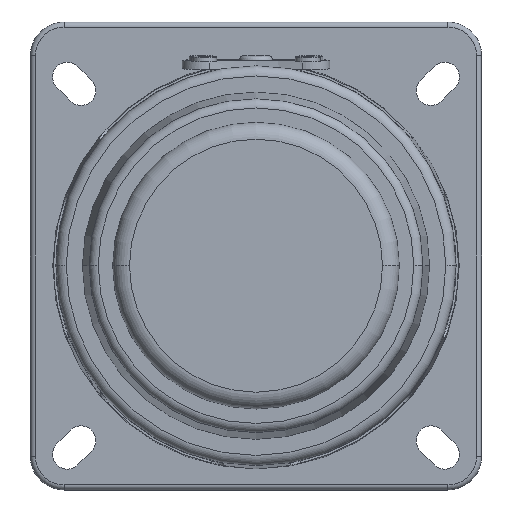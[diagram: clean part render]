
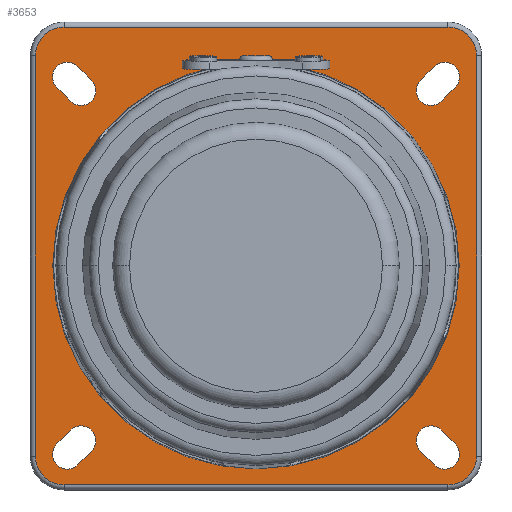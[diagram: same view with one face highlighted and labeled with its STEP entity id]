
A CAD part, front view. The second image highlights one B-rep face of the part: STEP entity #3653.
In plain terms, the highlighted planar face has unit normal (0, -1, 0).
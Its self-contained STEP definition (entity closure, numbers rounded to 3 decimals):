
#238=CARTESIAN_POINT('',(-22.38,17.4,22.38));
#239=DIRECTION('',(0.,1.,0.));
#240=DIRECTION('',(-0.707,0.,-0.707));
#241=AXIS2_PLACEMENT_3D('',#238,#239,#240);
#260=CARTESIAN_POINT('',(0.,17.4,0.));
#261=DIRECTION('',(0.,1.,0.));
#262=DIRECTION('',(1.,0.,0.));
#263=AXIS2_PLACEMENT_3D('',#260,#261,#262);
#268=CARTESIAN_POINT('',(0.,17.4,0.));
#269=DIRECTION('',(0.,-1.,0.));
#270=DIRECTION('',(1.,0.,0.));
#271=AXIS2_PLACEMENT_3D('',#268,#269,#270);
#276=CARTESIAN_POINT('',(-20.754,17.4,20.754));
#277=DIRECTION('',(0.,-1.,0.));
#278=DIRECTION('',(-0.707,0.,-0.707));
#279=AXIS2_PLACEMENT_3D('',#276,#277,#278);
#284=DIRECTION('',(-0.707,0.,0.707));
#285=VECTOR('',#284,2.3);
#286=CARTESIAN_POINT('',(-19.516,17.4,21.991));
#287=LINE('',#286,#285);
#291=DIRECTION('',(0.707,0.,-0.707));
#292=VECTOR('',#291,2.3);
#293=CARTESIAN_POINT('',(-23.617,17.4,21.142));
#294=LINE('',#293,#292);
#298=CARTESIAN_POINT('',(-20.754,17.4,-20.754));
#299=DIRECTION('',(0.,-1.,0.));
#300=DIRECTION('',(0.707,0.,-0.707));
#301=AXIS2_PLACEMENT_3D('',#298,#299,#300);
#306=DIRECTION('',(-0.707,0.,-0.707));
#307=VECTOR('',#306,2.3);
#308=CARTESIAN_POINT('',(-21.991,17.4,-19.516));
#309=LINE('',#308,#307);
#313=DIRECTION('',(0.707,0.,0.707));
#314=VECTOR('',#313,2.3);
#315=CARTESIAN_POINT('',(-21.142,17.4,-23.617));
#316=LINE('',#315,#314);
#320=CARTESIAN_POINT('',(20.754,17.4,-20.754));
#321=DIRECTION('',(0.,-1.,0.));
#322=DIRECTION('',(0.707,0.,0.707));
#323=AXIS2_PLACEMENT_3D('',#320,#321,#322);
#328=DIRECTION('',(0.707,0.,-0.707));
#329=VECTOR('',#328,2.3);
#330=CARTESIAN_POINT('',(19.516,17.4,-21.991));
#331=LINE('',#330,#329);
#335=DIRECTION('',(-0.707,0.,0.707));
#336=VECTOR('',#335,2.3);
#337=CARTESIAN_POINT('',(23.617,17.4,-21.142));
#338=LINE('',#337,#336);
#342=CARTESIAN_POINT('',(20.754,17.4,20.754));
#343=DIRECTION('',(0.,-1.,0.));
#344=DIRECTION('',(-0.707,0.,0.707));
#345=AXIS2_PLACEMENT_3D('',#342,#343,#344);
#350=DIRECTION('',(0.707,0.,0.707));
#351=VECTOR('',#350,2.3);
#352=CARTESIAN_POINT('',(21.991,17.4,19.516));
#353=LINE('',#352,#351);
#357=DIRECTION('',(-0.707,0.,-0.707));
#358=VECTOR('',#357,2.3);
#359=CARTESIAN_POINT('',(21.142,17.4,23.617));
#360=LINE('',#359,#358);
#364=CARTESIAN_POINT('',(-22.75,17.4,24.9));
#365=DIRECTION('',(0.,-1.,0.));
#366=DIRECTION('',(0.,0.,1.));
#367=AXIS2_PLACEMENT_3D('',#364,#365,#366);
#372=DIRECTION('',(-1.,0.,0.));
#373=VECTOR('',#372,45.5);
#374=CARTESIAN_POINT('',(22.75,17.4,28.3));
#375=LINE('',#374,#373);
#379=CARTESIAN_POINT('',(22.75,17.4,24.9));
#380=DIRECTION('',(0.,-1.,0.));
#381=DIRECTION('',(1.,0.,0.));
#382=AXIS2_PLACEMENT_3D('',#379,#380,#381);
#387=DIRECTION('',(0.,0.,1.));
#388=VECTOR('',#387,47.5);
#389=CARTESIAN_POINT('',(26.15,17.4,-22.6));
#390=LINE('',#389,#388);
#394=CARTESIAN_POINT('',(22.75,17.4,-22.6));
#395=DIRECTION('',(0.,-1.,0.));
#396=DIRECTION('',(0.,0.,-1.));
#397=AXIS2_PLACEMENT_3D('',#394,#395,#396);
#402=DIRECTION('',(1.,0.,0.));
#403=VECTOR('',#402,45.5);
#404=CARTESIAN_POINT('',(-22.75,17.4,-26.));
#405=LINE('',#404,#403);
#409=CARTESIAN_POINT('',(-22.75,17.4,-22.6));
#410=DIRECTION('',(0.,-1.,0.));
#411=DIRECTION('',(-1.,0.,0.));
#412=AXIS2_PLACEMENT_3D('',#409,#410,#411);
#417=DIRECTION('',(0.,0.,-1.));
#418=VECTOR('',#417,47.5);
#419=CARTESIAN_POINT('',(-26.15,17.4,24.9));
#420=LINE('',#419,#418);
#2532=CARTESIAN_POINT('',(-22.38,17.4,-22.38));
#2533=DIRECTION('',(0.,1.,0.));
#2534=DIRECTION('',(0.707,0.,-0.707));
#2535=AXIS2_PLACEMENT_3D('',#2532,#2533,#2534);
#2576=CARTESIAN_POINT('',(22.38,17.4,-22.38));
#2577=DIRECTION('',(0.,1.,0.));
#2578=DIRECTION('',(0.707,0.,0.707));
#2579=AXIS2_PLACEMENT_3D('',#2576,#2577,#2578);
#2620=CARTESIAN_POINT('',(22.38,17.4,22.38));
#2621=DIRECTION('',(0.,1.,0.));
#2622=DIRECTION('',(-0.707,0.,0.707));
#2623=AXIS2_PLACEMENT_3D('',#2620,#2621,#2622);
#3054=CARTESIAN_POINT('',(24.097,17.4,0.));
#3055=CARTESIAN_POINT('',(-24.097,17.4,0.));
#3056=VERTEX_POINT('',#3054);
#3057=VERTEX_POINT('',#3055);
#3094=CARTESIAN_POINT('',(-21.991,17.4,19.516));
#3095=CARTESIAN_POINT('',(-19.516,17.4,21.991));
#3096=VERTEX_POINT('',#3094);
#3097=VERTEX_POINT('',#3095);
#3098=CARTESIAN_POINT('',(-21.142,17.4,23.617));
#3099=VERTEX_POINT('',#3098);
#3100=CARTESIAN_POINT('',(-23.617,17.4,21.142));
#3101=VERTEX_POINT('',#3100);
#3110=CARTESIAN_POINT('',(-19.516,17.4,-21.991));
#3111=CARTESIAN_POINT('',(-21.991,17.4,-19.516));
#3112=VERTEX_POINT('',#3110);
#3113=VERTEX_POINT('',#3111);
#3114=CARTESIAN_POINT('',(-23.617,17.4,-21.142));
#3115=VERTEX_POINT('',#3114);
#3116=CARTESIAN_POINT('',(-21.142,17.4,-23.617));
#3117=VERTEX_POINT('',#3116);
#3126=CARTESIAN_POINT('',(21.991,17.4,-19.516));
#3127=CARTESIAN_POINT('',(19.516,17.4,-21.991));
#3128=VERTEX_POINT('',#3126);
#3129=VERTEX_POINT('',#3127);
#3130=CARTESIAN_POINT('',(21.142,17.4,-23.617));
#3131=VERTEX_POINT('',#3130);
#3132=CARTESIAN_POINT('',(23.617,17.4,-21.142));
#3133=VERTEX_POINT('',#3132);
#3142=CARTESIAN_POINT('',(19.516,17.4,21.991));
#3143=CARTESIAN_POINT('',(21.991,17.4,19.516));
#3144=VERTEX_POINT('',#3142);
#3145=VERTEX_POINT('',#3143);
#3146=CARTESIAN_POINT('',(23.617,17.4,21.142));
#3147=VERTEX_POINT('',#3146);
#3148=CARTESIAN_POINT('',(21.142,17.4,23.617));
#3149=VERTEX_POINT('',#3148);
#3374=CARTESIAN_POINT('',(-22.75,17.4,28.3));
#3375=CARTESIAN_POINT('',(-26.15,17.4,24.9));
#3376=VERTEX_POINT('',#3374);
#3377=VERTEX_POINT('',#3375);
#3382=CARTESIAN_POINT('',(-26.15,17.4,-22.6));
#3383=VERTEX_POINT('',#3382);
#3386=CARTESIAN_POINT('',(-22.75,17.4,-26.));
#3387=VERTEX_POINT('',#3386);
#3390=CARTESIAN_POINT('',(22.75,17.4,-26.));
#3391=VERTEX_POINT('',#3390);
#3394=CARTESIAN_POINT('',(26.15,17.4,-22.6));
#3395=VERTEX_POINT('',#3394);
#3398=CARTESIAN_POINT('',(26.15,17.4,24.9));
#3399=VERTEX_POINT('',#3398);
#3402=CARTESIAN_POINT('',(22.75,17.4,28.3));
#3403=VERTEX_POINT('',#3402);
#3588=CARTESIAN_POINT('',(0.,17.4,0.));
#3589=DIRECTION('',(0.,-1.,0.));
#3590=DIRECTION('',(-1.,0.,0.));
#3591=AXIS2_PLACEMENT_3D('',#3588,#3589,#3590);
#3592=PLANE('',#3591);
#3594=ORIENTED_EDGE('',*,*,#3593,.F.);
#3596=ORIENTED_EDGE('',*,*,#3595,.F.);
#3598=ORIENTED_EDGE('',*,*,#3597,.F.);
#3600=ORIENTED_EDGE('',*,*,#3599,.F.);
#3602=ORIENTED_EDGE('',*,*,#3601,.F.);
#3604=ORIENTED_EDGE('',*,*,#3603,.F.);
#3606=ORIENTED_EDGE('',*,*,#3605,.F.);
#3608=ORIENTED_EDGE('',*,*,#3607,.F.);
#3609=EDGE_LOOP('',(#3594,#3596,#3598,#3600,#3602,#3604,#3606,#3608));
#3610=FACE_OUTER_BOUND('',#3609,.F.);
#3611=ORIENTED_EDGE('',*,*,#3540,.T.);
#3612=ORIENTED_EDGE('',*,*,#3555,.T.);
#3613=ORIENTED_EDGE('',*,*,#3569,.F.);
#3614=ORIENTED_EDGE('',*,*,#3582,.T.);
#3615=EDGE_LOOP('',(#3611,#3612,#3613,#3614));
#3616=FACE_BOUND('',#3615,.F.);
#3618=ORIENTED_EDGE('',*,*,#3617,.T.);
#3620=ORIENTED_EDGE('',*,*,#3619,.T.);
#3622=ORIENTED_EDGE('',*,*,#3621,.F.);
#3624=ORIENTED_EDGE('',*,*,#3623,.T.);
#3625=EDGE_LOOP('',(#3618,#3620,#3622,#3624));
#3626=FACE_BOUND('',#3625,.F.);
#3628=ORIENTED_EDGE('',*,*,#3627,.T.);
#3630=ORIENTED_EDGE('',*,*,#3629,.T.);
#3632=ORIENTED_EDGE('',*,*,#3631,.F.);
#3634=ORIENTED_EDGE('',*,*,#3633,.T.);
#3635=EDGE_LOOP('',(#3628,#3630,#3632,#3634));
#3636=FACE_BOUND('',#3635,.F.);
#3638=ORIENTED_EDGE('',*,*,#3637,.T.);
#3640=ORIENTED_EDGE('',*,*,#3639,.T.);
#3642=ORIENTED_EDGE('',*,*,#3641,.F.);
#3644=ORIENTED_EDGE('',*,*,#3643,.T.);
#3645=EDGE_LOOP('',(#3638,#3640,#3642,#3644));
#3646=FACE_BOUND('',#3645,.F.);
#3648=ORIENTED_EDGE('',*,*,#3647,.F.);
#3650=ORIENTED_EDGE('',*,*,#3649,.T.);
#3651=EDGE_LOOP('',(#3648,#3650));
#3652=FACE_BOUND('',#3651,.F.);
#3653=ADVANCED_FACE('',(#3610,#3616,#3626,#3636,#3646,#3652),#3592,.T.);
#242=CIRCLE('',#241,1.75);
#264=CIRCLE('',#263,24.097);
#272=CIRCLE('',#271,24.097);
#280=CIRCLE('',#279,1.75);
#302=CIRCLE('',#301,1.75);
#324=CIRCLE('',#323,1.75);
#346=CIRCLE('',#345,1.75);
#368=CIRCLE('',#367,3.4);
#383=CIRCLE('',#382,3.4);
#398=CIRCLE('',#397,3.4);
#413=CIRCLE('',#412,3.4);
#2536=CIRCLE('',#2535,1.75);
#2580=CIRCLE('',#2579,1.75);
#2624=CIRCLE('',#2623,1.75);
#3540=EDGE_CURVE('',#3096,#3097,#280,.T.);
#3555=EDGE_CURVE('',#3097,#3099,#287,.T.);
#3569=EDGE_CURVE('',#3101,#3099,#242,.T.);
#3582=EDGE_CURVE('',#3101,#3096,#294,.T.);
#3593=EDGE_CURVE('',#3376,#3377,#368,.T.);
#3595=EDGE_CURVE('',#3403,#3376,#375,.T.);
#3597=EDGE_CURVE('',#3399,#3403,#383,.T.);
#3599=EDGE_CURVE('',#3395,#3399,#390,.T.);
#3601=EDGE_CURVE('',#3391,#3395,#398,.T.);
#3603=EDGE_CURVE('',#3387,#3391,#405,.T.);
#3605=EDGE_CURVE('',#3383,#3387,#413,.T.);
#3607=EDGE_CURVE('',#3377,#3383,#420,.T.);
#3617=EDGE_CURVE('',#3112,#3113,#302,.T.);
#3619=EDGE_CURVE('',#3113,#3115,#309,.T.);
#3621=EDGE_CURVE('',#3117,#3115,#2536,.T.);
#3623=EDGE_CURVE('',#3117,#3112,#316,.T.);
#3627=EDGE_CURVE('',#3128,#3129,#324,.T.);
#3629=EDGE_CURVE('',#3129,#3131,#331,.T.);
#3631=EDGE_CURVE('',#3133,#3131,#2580,.T.);
#3633=EDGE_CURVE('',#3133,#3128,#338,.T.);
#3637=EDGE_CURVE('',#3144,#3145,#346,.T.);
#3639=EDGE_CURVE('',#3145,#3147,#353,.T.);
#3641=EDGE_CURVE('',#3149,#3147,#2624,.T.);
#3643=EDGE_CURVE('',#3149,#3144,#360,.T.);
#3647=EDGE_CURVE('',#3056,#3057,#264,.T.);
#3649=EDGE_CURVE('',#3056,#3057,#272,.T.);
